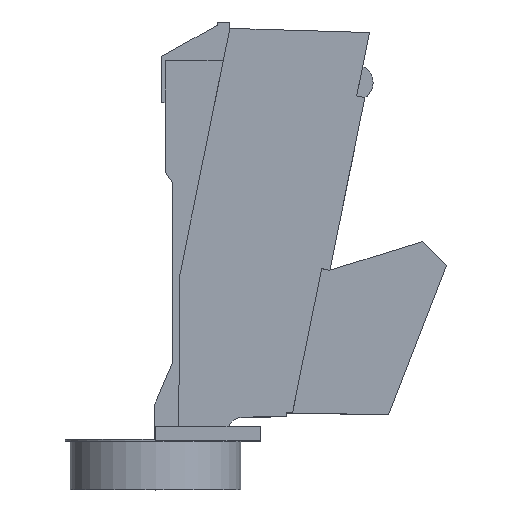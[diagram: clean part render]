
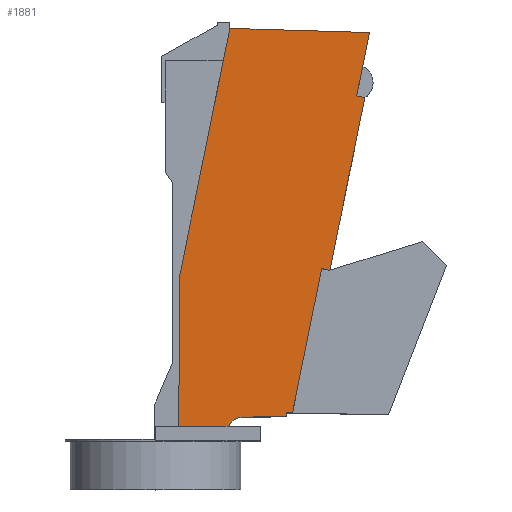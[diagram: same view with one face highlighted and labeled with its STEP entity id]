
A CAD part, top view. The second image highlights one B-rep face of the part: STEP entity #1881.
In plain terms, the highlighted planar face has unit normal (0, 0, 1).
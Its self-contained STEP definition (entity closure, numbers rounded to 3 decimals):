
#2 = DIRECTION ( 'NONE',  ( 1., 0., 0. ) ) ;
#6 = VERTEX_POINT ( 'NONE', #1666 ) ;
#10 = VECTOR ( 'NONE', #1512, 1000. ) ;
#14 = CARTESIAN_POINT ( 'NONE',  ( 17.569, -35.5, 12.1 ) ) ;
#38 = VECTOR ( 'NONE', #535, 1000. ) ;
#75 = CIRCLE ( 'NONE', #1374, 3. ) ;
#80 = VERTEX_POINT ( 'NONE', #693 ) ;
#81 = CARTESIAN_POINT ( 'NONE',  ( 17.765, 46.272, 12.1 ) ) ;
#85 = ORIENTED_EDGE ( 'NONE', *, *, #1602, .T. ) ;
#86 = LINE ( 'NONE', #705, #1121 ) ;
#106 = EDGE_CURVE ( 'NONE', #170, #1546, #547, .T. ) ;
#109 = CARTESIAN_POINT ( 'NONE',  ( 20.368, -36.58, 12.1 ) ) ;
#132 = VECTOR ( 'NONE', #1386, 1000. ) ;
#170 = VERTEX_POINT ( 'NONE', #749 ) ;
#188 = VECTOR ( 'NONE', #1192, 1000. ) ;
#193 = VECTOR ( 'NONE', #332, 1000. ) ;
#200 = CARTESIAN_POINT ( 'NONE',  ( 20.368, -35.5, 12.1 ) ) ;
#216 = ORIENTED_EDGE ( 'NONE', *, *, #1884, .T. ) ;
#225 = DIRECTION ( 'NONE',  ( 0., 1., 0. ) ) ;
#257 = VECTOR ( 'NONE', #1670, 1000. ) ;
#288 = DIRECTION ( 'NONE',  ( 0., 0., 1. ) ) ;
#301 = EDGE_CURVE ( 'NONE', #1811, #495, #652, .T. ) ;
#332 = DIRECTION ( 'NONE',  ( 1., 0.011, 0. ) ) ;
#340 = EDGE_CURVE ( 'NONE', #1625, #495, #1096, .T. ) ;
#341 = LINE ( 'NONE', #617, #193 ) ;
#371 = CARTESIAN_POINT ( 'NONE',  ( 17.765, 46.272, 12.1 ) ) ;
#395 = CARTESIAN_POINT ( 'NONE',  ( 38.299, -3.408, 12.1 ) ) ;
#422 = CARTESIAN_POINT ( 'NONE',  ( 29.38, -32.715, 12.1 ) ) ;
#432 = ORIENTED_EDGE ( 'NONE', *, *, #1115, .F. ) ;
#475 = ORIENTED_EDGE ( 'NONE', *, *, #106, .T. ) ;
#495 = VERTEX_POINT ( 'NONE', #1156 ) ;
#535 = DIRECTION ( 'NONE',  ( -0.199, -0.98, 0. ) ) ;
#547 = LINE ( 'NONE', #422, #750 ) ;
#551 = EDGE_CURVE ( 'NONE', #586, #1811, #838, .T. ) ;
#586 = VERTEX_POINT ( 'NONE', #371 ) ;
#592 = VERTEX_POINT ( 'NONE', #1258 ) ;
#610 = CARTESIAN_POINT ( 'NONE',  ( 45.06, 38.462, 12.1 ) ) ;
#617 = CARTESIAN_POINT ( 'NONE',  ( 20.335, -33.58, 12.1 ) ) ;
#621 = EDGE_CURVE ( 'NONE', #592, #791, #1483, .T. ) ;
#638 = LINE ( 'NONE', #610, #257 ) ;
#652 = LINE ( 'NONE', #1378, #132 ) ;
#674 = LINE ( 'NONE', #1107, #908 ) ;
#688 = VECTOR ( 'NONE', #1318, 1000. ) ;
#693 = CARTESIAN_POINT ( 'NONE',  ( 43.828, 32.389, 12.1 ) ) ;
#705 = CARTESIAN_POINT ( 'NONE',  ( 29.38, -33.48, 12.1 ) ) ;
#710 = CARTESIAN_POINT ( 'NONE',  ( 17.765, 46.272, 12.1 ) ) ;
#743 = VERTEX_POINT ( 'NONE', #1557 ) ;
#749 = CARTESIAN_POINT ( 'NONE',  ( 29.38, -32.715, 12.1 ) ) ;
#750 = VECTOR ( 'NONE', #840, 1000. ) ;
#785 = CARTESIAN_POINT ( 'NONE',  ( 46.47, 45.41, 12.1 ) ) ;
#790 = EDGE_CURVE ( 'NONE', #1649, #170, #86, .T. ) ;
#791 = VERTEX_POINT ( 'NONE', #395 ) ;
#838 = LINE ( 'NONE', #710, #38 ) ;
#840 = DIRECTION ( 'NONE',  ( 1., -0.017, 0. ) ) ;
#908 = VECTOR ( 'NONE', #1006, 1000. ) ;
#910 = EDGE_CURVE ( 'NONE', #1546, #592, #962, .T. ) ;
#928 = EDGE_CURVE ( 'NONE', #743, #791, #1754, .T. ) ;
#946 = ORIENTED_EDGE ( 'NONE', *, *, #1294, .T. ) ;
#962 = LINE ( 'NONE', #1252, #1431 ) ;
#984 = ORIENTED_EDGE ( 'NONE', *, *, #910, .T. ) ;
#996 = DIRECTION ( 'NONE',  ( 1., 0., 0. ) ) ;
#1006 = DIRECTION ( 'NONE',  ( 0.98, -0.199, 0. ) ) ;
#1025 = CARTESIAN_POINT ( 'NONE',  ( 38.299, -3.408, 12.1 ) ) ;
#1095 = DIRECTION ( 'NONE',  ( -1., 0.03, 0. ) ) ;
#1096 = LINE ( 'NONE', #200, #10 ) ;
#1107 = CARTESIAN_POINT ( 'NONE',  ( 8.032, 39.652, 12.1 ) ) ;
#1115 = EDGE_CURVE ( 'NONE', #80, #743, #674, .T. ) ;
#1121 = VECTOR ( 'NONE', #225, 1000. ) ;
#1123 = ORIENTED_EDGE ( 'NONE', *, *, #340, .F. ) ;
#1156 = CARTESIAN_POINT ( 'NONE',  ( 7.242, -35.5, 12.1 ) ) ;
#1192 = DIRECTION ( 'NONE',  ( -0.199, -0.98, 0. ) ) ;
#1199 = ORIENTED_EDGE ( 'NONE', *, *, #790, .T. ) ;
#1203 = EDGE_LOOP ( 'NONE', ( #1123, #216, #85, #1199, #475, #984, #1900, #1608, #432, #1262, #946, #1358, #1816 ) ) ;
#1243 = VECTOR ( 'NONE', #1095, 1000. ) ;
#1252 = CARTESIAN_POINT ( 'NONE',  ( 45.06, 38.462, 12.1 ) ) ;
#1258 = CARTESIAN_POINT ( 'NONE',  ( 36.633, -3.07, 12.1 ) ) ;
#1262 = ORIENTED_EDGE ( 'NONE', *, *, #1639, .T. ) ;
#1294 = EDGE_CURVE ( 'NONE', #1631, #586, #1846, .T. ) ;
#1295 = CARTESIAN_POINT ( 'NONE',  ( 20.368, -36.58, 12.1 ) ) ;
#1318 = DIRECTION ( 'NONE',  ( 0.98, -0.199, 0. ) ) ;
#1358 = ORIENTED_EDGE ( 'NONE', *, *, #551, .T. ) ;
#1374 = AXIS2_PLACEMENT_3D ( 'NONE', #1295, #1883, #2 ) ;
#1375 = CARTESIAN_POINT ( 'NONE',  ( 29.38, -33.48, 12.1 ) ) ;
#1378 = CARTESIAN_POINT ( 'NONE',  ( 7.215, -38.5, 12.1 ) ) ;
#1386 = DIRECTION ( 'NONE',  ( -0.009, -1., 0. ) ) ;
#1431 = VECTOR ( 'NONE', #1551, 1000. ) ;
#1482 = CARTESIAN_POINT ( 'NONE',  ( 30.613, -32.737, 12.1 ) ) ;
#1483 = LINE ( 'NONE', #1619, #688 ) ;
#1512 = DIRECTION ( 'NONE',  ( -1., 0., 0. ) ) ;
#1546 = VERTEX_POINT ( 'NONE', #1482 ) ;
#1551 = DIRECTION ( 'NONE',  ( 0.199, 0.98, 0. ) ) ;
#1557 = CARTESIAN_POINT ( 'NONE',  ( 45.494, 32.051, 12.1 ) ) ;
#1602 = EDGE_CURVE ( 'NONE', #6, #1649, #341, .T. ) ;
#1603 = FACE_OUTER_BOUND ( 'NONE', #1203, .T. ) ;
#1608 = ORIENTED_EDGE ( 'NONE', *, *, #928, .F. ) ;
#1619 = CARTESIAN_POINT ( 'NONE',  ( 0.838, 4.193, 12.1 ) ) ;
#1625 = VERTEX_POINT ( 'NONE', #14 ) ;
#1631 = VERTEX_POINT ( 'NONE', #785 ) ;
#1639 = EDGE_CURVE ( 'NONE', #80, #1631, #638, .T. ) ;
#1649 = VERTEX_POINT ( 'NONE', #1375 ) ;
#1666 = CARTESIAN_POINT ( 'NONE',  ( 20.335, -33.58, 12.1 ) ) ;
#1670 = DIRECTION ( 'NONE',  ( 0.199, 0.98, 0. ) ) ;
#1744 = AXIS2_PLACEMENT_3D ( 'NONE', #109, #288, #996 ) ;
#1754 = LINE ( 'NONE', #1025, #188 ) ;
#1768 = PLANE ( 'NONE',  #1744 ) ;
#1811 = VERTEX_POINT ( 'NONE', #1851 ) ;
#1816 = ORIENTED_EDGE ( 'NONE', *, *, #301, .T. ) ;
#1846 = LINE ( 'NONE', #81, #1243 ) ;
#1851 = CARTESIAN_POINT ( 'NONE',  ( 7.52, -4.22, 12.1 ) ) ;
#1881 = ADVANCED_FACE ( 'NONE', ( #1603 ), #1768, .T. ) ;
#1883 = DIRECTION ( 'NONE',  ( 0., 0., -1. ) ) ;
#1884 = EDGE_CURVE ( 'NONE', #1625, #6, #75, .T. ) ;
#1900 = ORIENTED_EDGE ( 'NONE', *, *, #621, .T. ) ;
